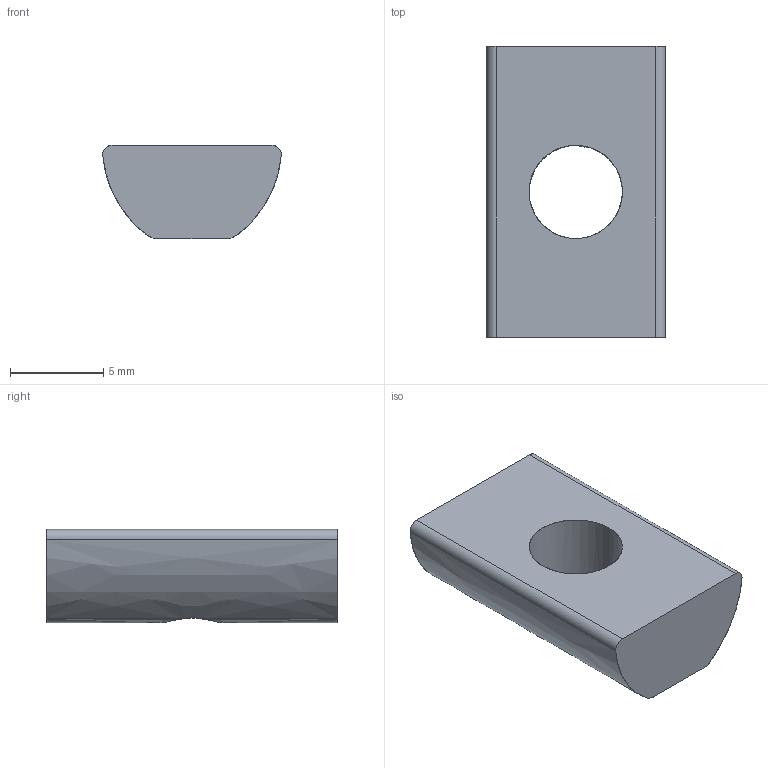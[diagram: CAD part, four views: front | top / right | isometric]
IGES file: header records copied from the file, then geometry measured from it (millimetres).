
Start section: SolidWorks IGES file using analytic representation for surfaces
Global section: file name: C:\Users\admin\Desktop\IGES\J3M6F.igs; native system: SolidWorks 2014; preprocessor: SolidWorks 2014; author: admin_pc; date: 170524.165503; units: millimetre
Bounding box: 9.58 x 15.6 x 5 mm (x, y, z)
Surface area: 511.4 mm2 (no closed solid volume)
Topology: 0 solids, 0 shells, 15 faces, 182 edges, 182 vertices
Faces by surface type: revolution 10, bspline 5
